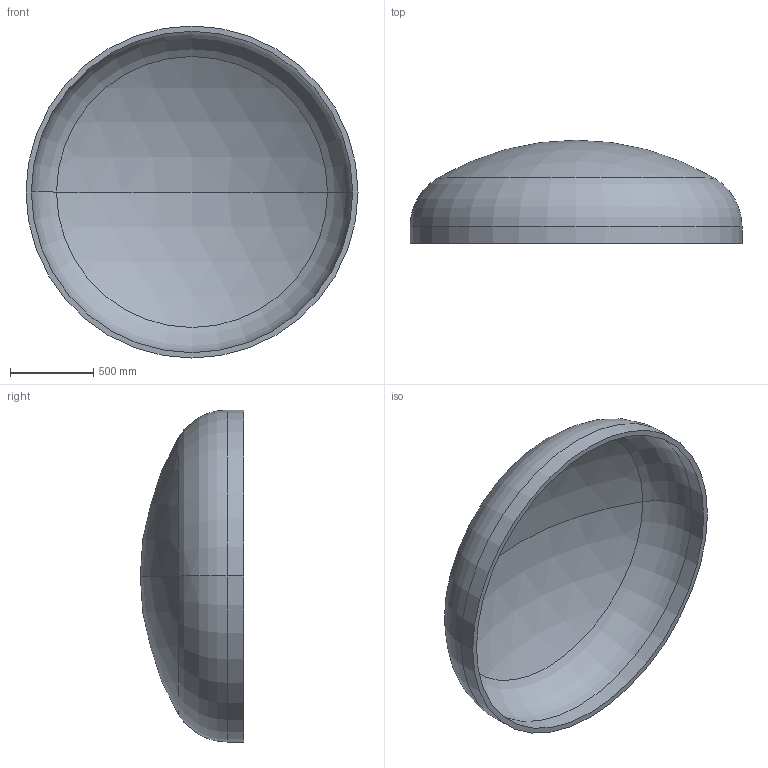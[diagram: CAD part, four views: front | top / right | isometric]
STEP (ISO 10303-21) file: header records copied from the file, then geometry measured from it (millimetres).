
FILE_DESCRIPTION (( 'STEP AP203' ), '1' );
FILE_NAME ('DIN 28013 Korbbogenform_-_Boden DIN 28013 - 2000 x 100 - I - s=32.step', '2016-07-01T13:47:23', ( '' ), ( '' ), 'SwSTEP 2.0', 'SolidWorks 2013', '' );
FILE_SCHEMA (( 'CONFIG_CONTROL_DESIGN' ));
Length unit declared in the file: millimetre
Products named in the file (1): DIN 28013 Korbbogenform_-_Boden DIN 28013 - 2000 x 100 - I - s=32
Bounding box: 2000 x 622.43 x 2000 mm (x, y, z)
Volume: 156283843.6 mm3; surface area: 9967726.6 mm2
Topology: 1 solids, 1 shells, 13 faces, 24 edges, 14 vertices
Faces by surface type: torus 4, cylinder 4, sphere 4, plane 1
Entity records: 407 total; most frequent: DIRECTION 72, CARTESIAN_POINT 52, ORIENTED_EDGE 48, AXIS2_PLACEMENT_3D 34, EDGE_CURVE 24, CIRCLE 20, EDGE_LOOP 14, VERTEX_POINT 14
